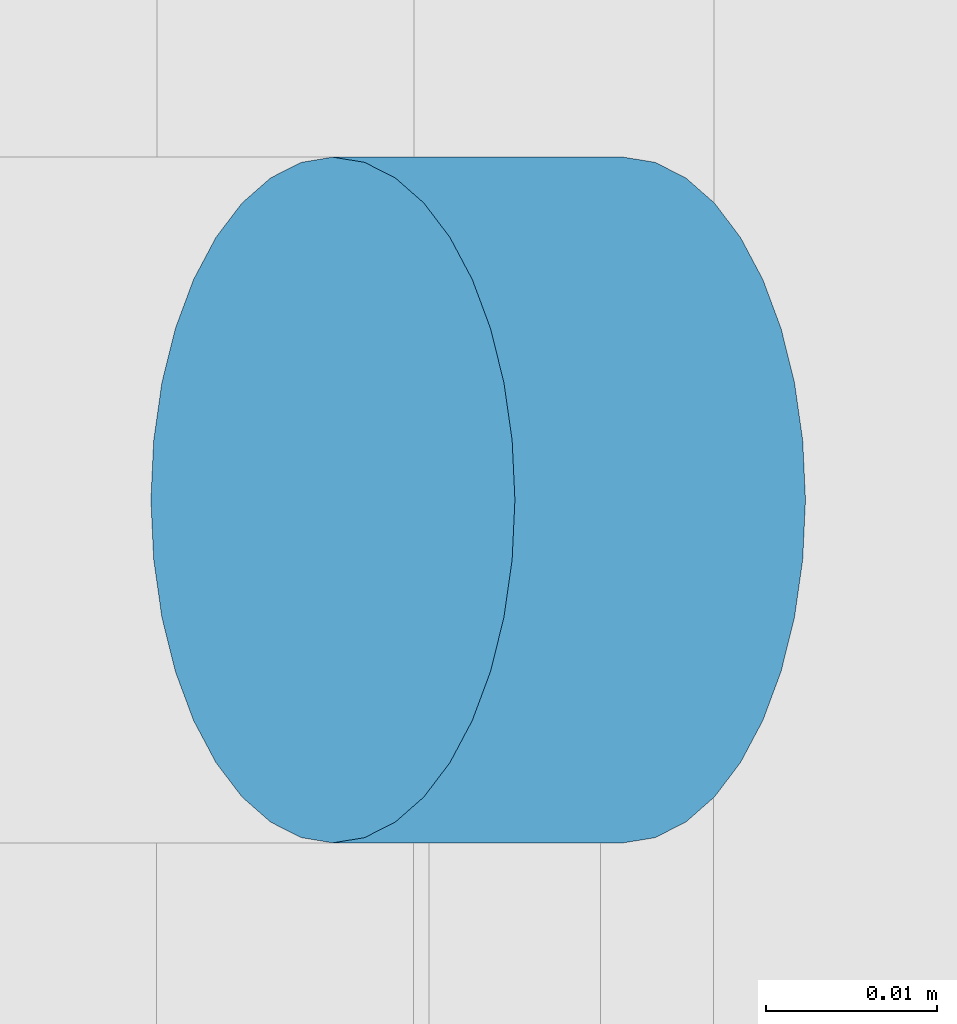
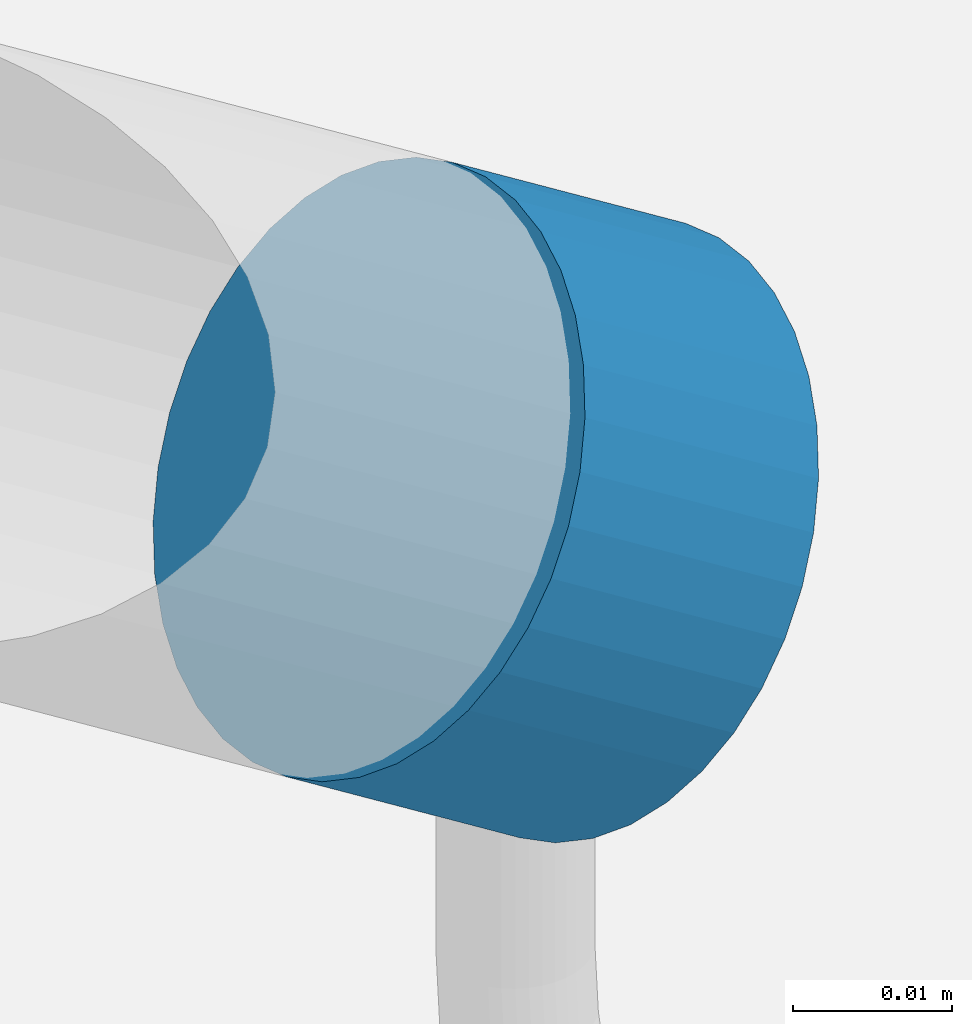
# One storey, part 151 of 237: 1 building element part, 1 element without a shape of its own.
"""IFC2X3 building model written with IfcOpenShell, lengths in millimetres."""

import ifcopenshell
import ifcopenshell.guid

model = None  # the IFC model being written
_history = None  # IfcOwnerHistory: only IFC2X3 demands one
_inside = {}  # id of a spatial element -> (the spatial element, [elements in it])
_under = {}  # id of a project, library or spatial element -> (it, [spatial elements below it])
_declared = {}  # id of a project -> (the project, [libraries it declares])
_typed = {}  # id of a type object -> (the type object, [elements of that type])
_made_of = {}  # id of a material, layer set ... -> (it, [elements and type objects made of it])


def new_model(schema):
    """Start an empty IFC model of exactly this schema.

    Asked for "IFC4X3", IfcOpenShell would pick the latest addendum, in which some entities
    have other attributes; the version numbers below select the first issue.
    IFC2X3 requires an IfcOwnerHistory on every rooted entity: one is made here for all.
    """
    global model, _history
    if schema == "IFC4X3":
        model = ifcopenshell.file(schema_version=(4, 3, 0, 0))
    else:
        model = ifcopenshell.file(schema=schema)
    _inside.clear()
    _under.clear()
    _declared.clear()
    _typed.clear()
    _made_of.clear()
    _history = None
    if model.schema == "IFC2X3":
        org = make("IfcOrganization", Name="unknown")
        user = make(
            "IfcPersonAndOrganization",
            ThePerson=make("IfcPerson", FamilyName="unknown"),
            TheOrganization=org,
        )
        app = make(
            "IfcApplication",
            ApplicationDeveloper=org,
            Version="unknown",
            ApplicationFullName="unknown",
            ApplicationIdentifier="unknown",
        )
        _history = make(
            "IfcOwnerHistory",
            OwningUser=user,
            OwningApplication=app,
            ChangeAction="ADDED",
            CreationDate=0,
        )
    return model


def make(cls, **values):
    """One entity of the class cls with the attributes given. An attribute that is None is left unset."""
    return model.create_entity(
        cls, **{name: value for name, value in values.items() if value is not None}
    )


def entity(cls, *values):
    """Any entity or typed value of the class cls, its attributes in the order of the schema. None: left unset."""
    e = model.create_entity(cls)
    for i, value in enumerate(values):
        if value is not None:
            e[i] = value
    return e


def rooted(cls, **values):
    """An entity with a GlobalId (a new one), such as an element, a storey or a relation."""
    return make(cls, GlobalId=ifcopenshell.guid.new(), OwnerHistory=_history, **values)


def si_unit(unit_type, name, prefix=None):
    """IfcSIUnit, for example si_unit("LENGTHUNIT", "METRE", prefix="MILLI")."""
    return make("IfcSIUnit", UnitType=unit_type, Prefix=prefix, Name=name)


def converted_unit(unit_type, name, factor, base, dimensions=None, offset=None):
    """IfcConversionBasedUnit, such as the inch: factor (a typed value) times the base unit."""
    return make(
        "IfcConversionBasedUnit"
        if offset is None
        else "IfcConversionBasedUnitWithOffset",
        ConversionOffset=offset,
        Dimensions=None
        if dimensions is None
        else entity("IfcDimensionalExponents", *dimensions),
        UnitType=unit_type,
        Name=name,
        ConversionFactor=make(
            "IfcMeasureWithUnit", ValueComponent=factor, UnitComponent=base
        ),
    )


def derived_unit(unit_type, elements):
    """IfcDerivedUnit: a product of units, each with its exponent."""
    return make(
        "IfcDerivedUnit",
        Elements=[
            make("IfcDerivedUnitElement", Unit=unit, Exponent=power)
            for unit, power in elements
        ],
        UnitType=unit_type,
    )


def money_unit(currency):
    """IfcMonetaryUnit."""
    return make("IfcMonetaryUnit", Currency=currency)


def assignment(units):
    """IfcUnitAssignment: the units of a project."""
    return None if units is None else make("IfcUnitAssignment", Units=units)


def point(xyz):
    """IfcCartesianPoint."""
    return None if xyz is None else make("IfcCartesianPoint", Coordinates=xyz)


def direction(xyz):
    """IfcDirection."""
    return None if xyz is None else make("IfcDirection", DirectionRatios=xyz)


def frame(location, z_axis=None, x_axis=None):
    """IfcAxis2Placement3D, a coordinate frame: its origin and axes. An axis left out is left unset."""
    return make(
        "IfcAxis2Placement3D",
        Location=point(location),
        Axis=direction(z_axis),
        RefDirection=direction(x_axis),
    )


def origin_with_axes():
    """The frame at (0, 0, 0) with the z axis (0, 0, 1) and the x axis (1, 0, 0) written out."""
    return frame((0.0, 0.0, 0.0), z_axis=(0.0, 0.0, 1.0), x_axis=(1.0, 0.0, 0.0))


def place(relative_to, where):
    """IfcLocalPlacement: puts the frame where relative to a parent placement (None: the world)."""
    return make(
        "IfcLocalPlacement", PlacementRelTo=relative_to, RelativePlacement=where
    )


def context(
    kind, dimensions, precision=None, world=None, true_north=None, identifier=None
):
    """IfcGeometricRepresentationContext, for example the 3D "Model" context."""
    return make(
        "IfcGeometricRepresentationContext",
        ContextIdentifier=identifier,
        ContextType=kind,
        CoordinateSpaceDimension=dimensions,
        Precision=precision,
        WorldCoordinateSystem=world,
        TrueNorth=true_north,
    )


def subcontext(parent, identifier, kind, view, scale=None):
    """IfcGeometricRepresentationSubContext, for example "Body" below "Model"."""
    return make(
        "IfcGeometricRepresentationSubContext",
        ContextIdentifier=identifier,
        ContextType=kind,
        ParentContext=parent,
        TargetScale=scale,
        TargetView=view,
    )


def project(units=None, contexts=None):
    """IfcProject with its units and contexts."""
    return rooted(
        "IfcProject",
        Name="project",
        RepresentationContexts=contexts,
        UnitsInContext=assignment(units),
    )


def spatial(cls, under=None, at=None, **own):
    """A site, building, storey or space (cls), placed at a placement, below another one or the project."""
    s = rooted(cls, ObjectPlacement=at, **own)
    if under is not None:
        _under.setdefault(under.id(), (under, []))[1].append(s)
    return s


def faces_of(points, faces, orient=None, outer=None):
    """IfcFace entities. A face is a list of loops; a loop is a list of indices into points, from 0.

    orient and outer hold one flag for each loop. By default every Orientation is true, the
    first loop of a face is its IfcFaceOuterBound and the others are IfcFaceBound.
    """
    made = []
    for i, loops in enumerate(faces):
        bounds = []
        for j, loop in enumerate(loops):
            is_outer = j == 0 if outer is None else outer[i][j]
            bounds.append(
                make(
                    "IfcFaceOuterBound" if is_outer else "IfcFaceBound",
                    Bound=make("IfcPolyLoop", Polygon=[points[k] for k in loop]),
                    Orientation=True if orient is None else orient[i][j],
                )
            )
        made.append(make("IfcFace", Bounds=bounds))
    return made


def faceted_brep(points, faces, orient=None, outer=None, voids=None):
    """IfcFacetedBrep: a solid bounded by flat faces; with voids (closed shells), ...WithVoids."""
    shared = [point(p) for p in points]
    hull = make("IfcClosedShell", CfsFaces=faces_of(shared, faces, orient, outer))
    if voids is None:
        return make("IfcFacetedBrep", Outer=hull)
    return make(
        "IfcFacetedBrepWithVoids",
        Outer=hull,
        Voids=[
            make(cls, CfsFaces=faces_of(shared, fs, o, b)) for cls, fs, o, b in voids
        ],
    )


def shape(context_of_items, identifier, shape_type, items):
    """IfcShapeRepresentation: the items that make up one representation, for example the "Body"."""
    return make(
        "IfcShapeRepresentation",
        ContextOfItems=context_of_items,
        RepresentationIdentifier=identifier,
        RepresentationType=shape_type,
        Items=items,
    )


def material(Name=None, Category=None):
    """IfcMaterial."""
    return make("IfcMaterial", Name=Name, Category=Category)


def made_of(thing, what):
    """Note that an element or type object is made of a material, layer set ...; save() writes the relation."""
    if what is not None:
        _made_of.setdefault(what.id(), (what, []))[1].append(thing)
    return thing


def type_object(cls, material=None, **own):
    """A type object (cls), such as IfcWallType, which elements share."""
    return made_of(rooted(cls, **own), material)


def element(
    cls,
    number,
    at=None,
    inside=None,
    cuts=None,
    type_object=None,
    material=None,
    context=None,
    identifier="Body",
    shape_type=None,
    held_by="IfcProductDefinitionShape",
    body=None,
    shapes=None,
    **own,
):
    """One element of the class cls, such as IfcWall. Its Tag is "e" and its number.

    at: its placement. inside: the storey or other place that contains it. cuts: it is an
    opening in that element (IfcRelVoidsElement). A single representation is given by context,
    identifier, shape_type and body (its items); several are given by shapes. held_by: the class
    of the entity that holds the representations. save() writes the other relations.
    """
    e = rooted(cls, Tag="e%d" % number, ObjectPlacement=at, **own)
    if body is not None:
        shapes = [shape(context, identifier, shape_type, body)]
    if shapes is not None:
        e.Representation = make(held_by, Representations=shapes)
    if inside is not None:
        _inside.setdefault(inside.id(), (inside, []))[1].append(e)
    if cuts is not None:
        rooted(
            "IfcRelVoidsElement", RelatingBuildingElement=cuts, RelatedOpeningElement=e
        )
    if type_object is not None:
        _typed.setdefault(type_object.id(), (type_object, []))[1].append(e)
    return made_of(e, material)


def aggregate(whole, parts):
    """IfcRelAggregates: a whole, such as a stair, and the parts it consists of."""
    return rooted("IfcRelAggregates", RelatingObject=whole, RelatedObjects=parts)


def save(model, path):
    """Write the relations noted so far, then the file.

    IfcRelAggregates (storeys below a building ...), IfcRelContainedInSpatialStructure (elements
    in a storey), IfcRelDefinesByType, IfcRelAssociatesMaterial and IfcRelDeclares: one each for
    every whole, place, type object, material and project.
    """
    for whole, parts in _under.values():
        aggregate(whole, parts)
    for where, things in _inside.values():
        rooted(
            "IfcRelContainedInSpatialStructure",
            RelatedElements=things,
            RelatingStructure=where,
        )
    for kind, things in _typed.values():
        rooted("IfcRelDefinesByType", RelatedObjects=things, RelatingType=kind)
    for what, things in _made_of.values():
        rooted("IfcRelAssociatesMaterial", RelatedObjects=things, RelatingMaterial=what)
    for by, libraries in _declared.values():
        rooted("IfcRelDeclares", RelatingContext=by, RelatedDefinitions=libraries)
    model.write(path)


model = new_model("IFC2X3")

# Units and contexts
model_context = context("Model", 3, precision=0.01, world=origin_with_axes(), true_north=direction((0.0, 1.0)))
body_context = subcontext(model_context, "Body", "Model", "MODEL_VIEW")
ifc_project = project(units=[si_unit("LENGTHUNIT", "METRE", prefix="MILLI"), si_unit("AREAUNIT", "SQUARE_METRE"), si_unit("VOLUMEUNIT", "CUBIC_METRE"), converted_unit("PLANEANGLEUNIT", "DEGREE", entity("IfcPlaneAngleMeasure", 0.0174532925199), si_unit("PLANEANGLEUNIT", "RADIAN"), dimensions=[0, 0, 0, 0, 0, 0, 0]), money_unit("USD"), converted_unit("TIMEUNIT", "Year", entity("IfcTimeMeasure", 31556926.0), si_unit("TIMEUNIT", "SECOND"), dimensions=[0, 0, 1, 0, 0, 0, 0]), si_unit("MASSUNIT", "GRAM", prefix="KILO"), si_unit("THERMODYNAMICTEMPERATUREUNIT", "DEGREE_CELSIUS"), si_unit("LUMINOUSINTENSITYUNIT", "LUMEN"), si_unit("ENERGYUNIT", "JOULE", prefix="MEGA"), derived_unit("THERMALCONDUCTANCEUNIT", [(si_unit("POWERUNIT", "WATT"), 1), (si_unit("LENGTHUNIT", "METRE"), -1), (si_unit("THERMODYNAMICTEMPERATUREUNIT", "KELVIN"), -1)]), derived_unit("SPECIFICHEATCAPACITYUNIT", [(si_unit("ENERGYUNIT", "JOULE"), 1), (si_unit("MASSUNIT", "GRAM", prefix="KILO"), -1), (si_unit("THERMODYNAMICTEMPERATUREUNIT", "KELVIN"), -1)]), derived_unit("MASSDENSITYUNIT", [(si_unit("MASSUNIT", "GRAM", prefix="KILO"), 1), (si_unit("VOLUMEUNIT", "CUBIC_METRE"), -1)])], contexts=[model_context])

# Site, building, storey
site_placement = place(None, origin_with_axes())
site = spatial("IfcSite", under=ifc_project, at=site_placement, Name="Local", CompositionType="ELEMENT")
building_placement = place(site_placement, origin_with_axes())
building = spatial("IfcBuilding", under=site, at=building_placement, Name="Construção", CompositionType="ELEMENT")
storey_placement = place(building_placement, origin_with_axes())
storey = spatial("IfcBuildingStorey", under=building, at=storey_placement, Name="Pavimento Térreo", CompositionType="ELEMENT", Elevation=0.0)

# Railing, building element part
railing_type = type_object("IfcRailingType", Name="Tipo de Guarda-Corpo", PredefinedType="NOTDEFINED")
railing_placement = place(storey_placement, frame((104000.0, 14000.0, -7099.22292764), z_axis=(0.0, 0.0, 1.0), x_axis=(1.0, 0.0, 0.0)))
railing = element("IfcRailing", 1, at=railing_placement, inside=storey, type_object=railing_type, Name="Guarda-Corpo - 001", PredefinedType="NOTDEFINED")
ifc_material = material(Name="Aço - Inoxidável")
building_element_part_placement = place(railing_placement, origin_with_axes())
building_element_part = element("IfcBuildingElementPart", 2, at=building_element_part_placement, material=ifc_material, Name="Aço - Inoxidável", context=body_context, shape_type="Brep", body=[
    faceted_brep([(-426.809519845, 18791.4212534, 928.105972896), (-424.965923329, 18791.1174083, 931.049207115), (-408.016512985, 18791.1174074, 920.432357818), (-409.860109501, 18791.4212524, 917.4891236), (-428.653116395, 18791.1174085, 925.162738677), (-430.440696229, 18790.215106, 922.308933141), (-432.11794464, 18788.7417617, 919.631267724), (-433.633899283, 18786.7421426, 917.211101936), (-434.942498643, 18784.277006, 915.121971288), (-436.003981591, 18781.4212539, 913.427352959), (-436.786095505, 18778.2616568, 912.178737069), (-437.265076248, 18774.8942175, 911.41406218), (-437.426370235, 18771.4212539, 911.156562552), (-437.265076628, 18767.9482904, 911.41406218), (-436.786096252, 18764.580851, 912.178737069), (-436.003982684, 18761.4212539, 913.427352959), (-434.942500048, 18758.5655016, 915.121971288), (-433.633900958, 18756.1003649, 917.211101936), (-432.117946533, 18754.1007456, 919.631267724), (-430.440698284, 18752.6274011, 922.308933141), (-428.653118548, 18751.7250984, 925.162738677), (-426.809522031, 18751.4212534, 928.105972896), (-424.965925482, 18751.7250982, 931.049207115), (-423.178345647, 18752.6274007, 933.903012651), (-421.501097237, 18754.100745, 936.580678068), (-419.985142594, 18756.1003641, 939.000843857), (-418.676543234, 18758.5655007, 941.089974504), (-417.615060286, 18761.4212529, 942.784592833), (-416.832946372, 18764.5808499, 944.033208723), (-416.353965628, 18767.9482892, 944.797883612), (-416.192671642, 18771.4212528, 945.05538324), (-416.353965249, 18774.8942163, 944.797883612), (-416.832945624, 18778.2616557, 944.033208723), (-417.615059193, 18781.4212529, 942.784592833), (-418.676541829, 18784.2770051, 941.089974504), (-419.985140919, 18786.7421418, 939.000843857), (-421.501095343, 18788.7417611, 936.580678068), (-423.178343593, 18790.2151056, 933.903012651), (-406.228933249, 18790.2151046, 923.286163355), (-404.551684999, 18788.7417602, 925.963828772), (-403.035730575, 18786.7421409, 928.38399456), (-401.727131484, 18784.2770042, 930.473125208), (-400.665648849, 18781.4212519, 932.167743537), (-399.88353528, 18778.2616548, 933.416359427), (-399.404554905, 18774.8942154, 934.181034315), (-399.243261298, 18771.4212519, 934.438533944), (-399.404555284, 18767.9482883, 934.181034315), (-399.883536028, 18764.580849, 933.416359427), (-400.665649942, 18761.4212519, 932.167743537), (-401.72713289, 18758.5654998, 930.473125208), (-403.03573225, 18756.1003632, 928.38399456), (-404.551686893, 18754.1007441, 925.963828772), (-406.228935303, 18752.6273998, 923.286163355), (-408.016515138, 18751.7250973, 920.432357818), (-409.860111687, 18751.4212524, 917.4891236), (-411.703708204, 18751.7250975, 914.545889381), (-413.49128794, 18752.6274002, 911.692083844), (-415.168536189, 18754.1007446, 909.014418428), (-416.684490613, 18756.1003639, 906.594252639), (-417.993089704, 18758.5655007, 904.505121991), (-419.05457234, 18761.4212529, 902.810503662), (-419.836685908, 18764.5808501, 901.561887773), (-420.315666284, 18767.9482894, 900.797212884), (-420.476959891, 18771.421253, 900.539713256), (-420.315665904, 18774.8942166, 900.797212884), (-419.836685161, 18778.2616558, 901.561887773), (-419.054571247, 18781.4212529, 902.810503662), (-417.993088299, 18784.2770051, 904.505121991), (-416.684488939, 18786.7421417, 906.594252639), (-415.168534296, 18788.7417608, 909.014418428), (-413.491285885, 18790.215105, 911.692083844), (-411.703706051, 18791.1174076, 914.545889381)], [[[0, 1, 2, 3]], [[0, 4, 5, 6, 7, 8, 9, 10, 11, 12, 13, 14, 15, 16, 17, 18, 19, 20, 21, 22, 23, 24, 25, 26, 27, 28, 29, 30, 31, 32, 33, 34, 35, 36, 37, 1]], [[1, 37, 38, 2]], [[3, 2, 38, 39, 40, 41, 42, 43, 44, 45, 46, 47, 48, 49, 50, 51, 52, 53, 54, 55, 56, 57, 58, 59, 60, 61, 62, 63, 64, 65, 66, 67, 68, 69, 70, 71]], [[4, 0, 3, 71]], [[5, 4, 71, 70]], [[6, 5, 70, 69]], [[7, 6, 69, 68]], [[8, 7, 68, 67]], [[9, 8, 67, 66]], [[10, 9, 66, 65]], [[11, 10, 65, 64]], [[12, 11, 64, 63]], [[13, 12, 63, 62]], [[14, 13, 62, 61]], [[15, 14, 61, 60]], [[16, 15, 60, 59]], [[17, 16, 59, 58]], [[18, 17, 58, 57]], [[19, 18, 57, 56]], [[20, 19, 56, 55]], [[21, 20, 55, 54]], [[22, 21, 54, 53]], [[23, 22, 53, 52]], [[24, 23, 52, 51]], [[25, 24, 51, 50]], [[26, 25, 50, 49]], [[27, 26, 49, 48]], [[28, 27, 48, 47]], [[29, 28, 47, 46]], [[30, 29, 46, 45]], [[31, 30, 45, 44]], [[32, 31, 44, 43]], [[33, 32, 43, 42]], [[34, 33, 42, 41]], [[35, 34, 41, 40]], [[36, 35, 40, 39]], [[37, 36, 39, 38]]]),
])
aggregate(railing, [building_element_part])

save(model, "model.ifc")
